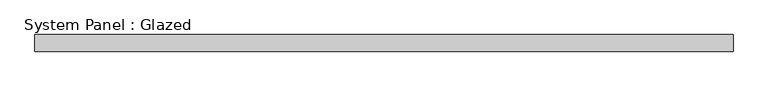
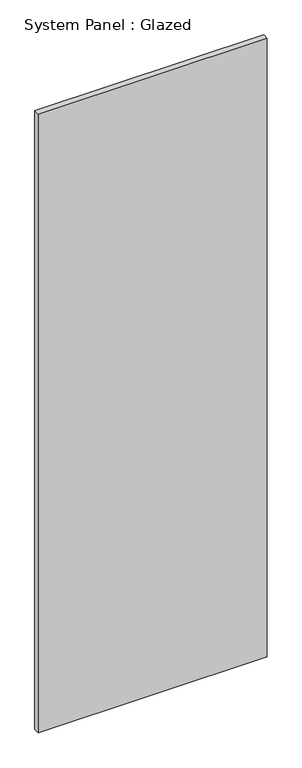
"""IFC4 building model written with IfcOpenShell, lengths in millimetres: plate geometry, System Panel : Glazed."""

from ifc_helpers import new_model, si_unit, origin, origin_with_axes, place, context, project, spatial, polyline, outline, extrude, source, transform, mapped, element, save


def system_panel_glazed_7622d22c(model_context):
    return source(origin(), model_context, "Body", "SweptSolid", [
        extrude(outline(polyline([(512.5, 24.5), (-512.5, 24.5), (-512.5, 49.5), (512.5, 49.5), (512.5, 24.5)])), origin_with_axes(), (0.0, 0.0, 1.0), 2925.0),
    ])


if __name__ == "__main__":
    model = new_model("IFC4")
    model_context = context("Model", 3, world=origin())
    ifc_project = project(units=[si_unit("LENGTHUNIT", "METRE", prefix="MILLI")], contexts=[model_context])
    site = spatial("IfcSite", under=ifc_project)
    building = spatial("IfcBuilding", under=site)
    placement = place(None, origin())
    system_panel_glazed_shape = system_panel_glazed_7622d22c(model_context)
    element("IfcPlate", 1, ObjectType="System Panel : Glazed", at=placement, inside=building, context=model_context, shape_type="MappedRepresentation", body=[
        mapped(system_panel_glazed_shape, transform((0.0, 0.0, 0.0), x_axis=(1.0, 0.0, 0.0), y_axis=(0.0, 1.0, 0.0), z_axis=(0.0, 0.0, 1.0))),
    ])
    save(model, "model.ifc")
